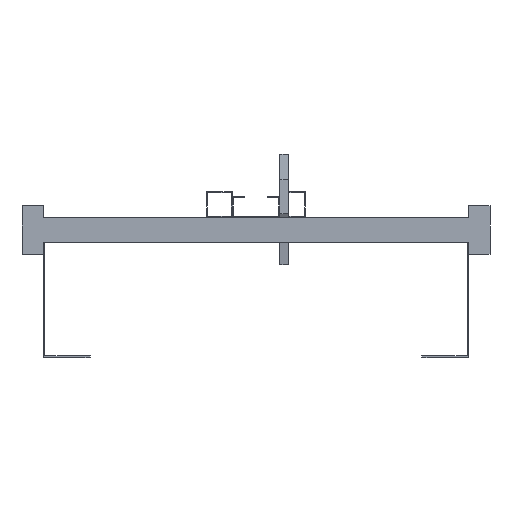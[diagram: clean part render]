
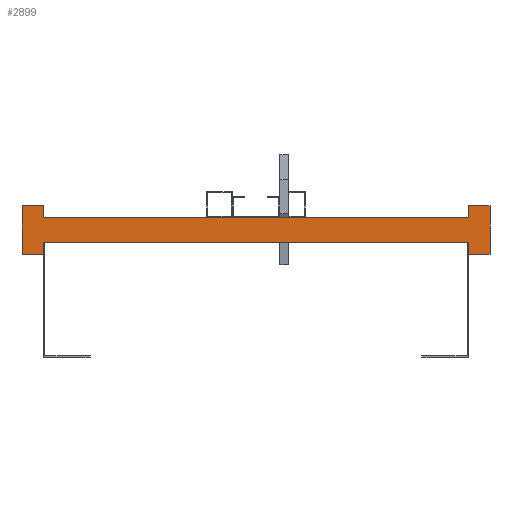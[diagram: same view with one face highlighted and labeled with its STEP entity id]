
A CAD part, front view. The second image highlights one B-rep face of the part: STEP entity #2899.
In plain terms, the highlighted planar face has unit normal (0, -1, 0).
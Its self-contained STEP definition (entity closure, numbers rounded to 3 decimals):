
#961=DIRECTION('',(0.,0.,1.));
#962=VECTOR('',#961,13.5);
#963=CARTESIAN_POINT('',(250.,0.,-28.5));
#964=LINE('',#963,#962);
#965=DIRECTION('',(0.,0.,-1.));
#966=VECTOR('',#965,13.5);
#967=CARTESIAN_POINT('',(-250.,0.,-15.));
#968=LINE('',#967,#966);
#969=DIRECTION('',(-1.,0.,0.));
#970=VECTOR('',#969,25.);
#971=CARTESIAN_POINT('',(-250.,0.,-28.5));
#972=LINE('',#971,#970);
#973=DIRECTION('',(0.,0.,1.));
#974=VECTOR('',#973,57.);
#975=CARTESIAN_POINT('',(-275.,0.,-28.5));
#976=LINE('',#975,#974);
#977=DIRECTION('',(1.,0.,0.));
#978=VECTOR('',#977,25.);
#979=CARTESIAN_POINT('',(-275.,0.,28.5));
#980=LINE('',#979,#978);
#981=DIRECTION('',(0.,0.,-1.));
#982=VECTOR('',#981,13.5);
#983=CARTESIAN_POINT('',(-250.,0.,28.5));
#984=LINE('',#983,#982);
#985=DIRECTION('',(0.,0.,1.));
#986=VECTOR('',#985,13.5);
#987=CARTESIAN_POINT('',(250.,0.,15.));
#988=LINE('',#987,#986);
#989=DIRECTION('',(1.,0.,0.));
#990=VECTOR('',#989,25.);
#991=CARTESIAN_POINT('',(250.,0.,28.5));
#992=LINE('',#991,#990);
#993=DIRECTION('',(0.,0.,-1.));
#994=VECTOR('',#993,57.);
#995=CARTESIAN_POINT('',(275.,0.,28.5));
#996=LINE('',#995,#994);
#997=DIRECTION('',(-1.,0.,0.));
#998=VECTOR('',#997,25.);
#999=CARTESIAN_POINT('',(275.,0.,-28.5));
#1000=LINE('',#999,#998);
#1001=DIRECTION('',(1.,0.,0.));
#1002=VECTOR('',#1001,500.);
#1003=CARTESIAN_POINT('',(-250.,0.,-15.));
#1004=LINE('',#1003,#1002);
#1013=DIRECTION('',(1.,0.,0.));
#1014=VECTOR('',#1013,500.);
#1015=CARTESIAN_POINT('',(-250.,0.,15.));
#1016=LINE('',#1015,#1014);
#1297=CARTESIAN_POINT('',(-275.,0.,28.5));
#1298=CARTESIAN_POINT('',(-250.,0.,28.5));
#1299=VERTEX_POINT('',#1297);
#1300=VERTEX_POINT('',#1298);
#1301=CARTESIAN_POINT('',(-250.,0.,-28.5));
#1302=CARTESIAN_POINT('',(-275.,0.,-28.5));
#1303=VERTEX_POINT('',#1301);
#1304=VERTEX_POINT('',#1302);
#1305=CARTESIAN_POINT('',(275.,0.,28.5));
#1306=CARTESIAN_POINT('',(275.,0.,-28.5));
#1307=VERTEX_POINT('',#1305);
#1308=VERTEX_POINT('',#1306);
#1309=CARTESIAN_POINT('',(250.,0.,-28.5));
#1310=VERTEX_POINT('',#1309);
#1311=CARTESIAN_POINT('',(250.,0.,28.5));
#1312=VERTEX_POINT('',#1311);
#1329=CARTESIAN_POINT('',(-250.,0.,-15.));
#1331=VERTEX_POINT('',#1329);
#1333=CARTESIAN_POINT('',(-250.,0.,15.));
#1335=VERTEX_POINT('',#1333);
#1337=CARTESIAN_POINT('',(250.,0.,-15.));
#1339=VERTEX_POINT('',#1337);
#1341=CARTESIAN_POINT('',(250.,0.,15.));
#1343=VERTEX_POINT('',#1341);
#2874=CARTESIAN_POINT('',(0.,0.,0.));
#2875=DIRECTION('',(0.,1.,0.));
#2876=DIRECTION('',(1.,0.,0.));
#2877=AXIS2_PLACEMENT_3D('',#2874,#2875,#2876);
#2878=PLANE('',#2877);
#2879=ORIENTED_EDGE('',*,*,#2017,.T.);
#2881=ORIENTED_EDGE('',*,*,#2880,.F.);
#2882=ORIENTED_EDGE('',*,*,#1804,.T.);
#2883=ORIENTED_EDGE('',*,*,#1714,.T.);
#2885=ORIENTED_EDGE('',*,*,#2884,.T.);
#2887=ORIENTED_EDGE('',*,*,#2886,.T.);
#2888=ORIENTED_EDGE('',*,*,#1812,.T.);
#2890=ORIENTED_EDGE('',*,*,#2889,.T.);
#2891=ORIENTED_EDGE('',*,*,#2009,.T.);
#2893=ORIENTED_EDGE('',*,*,#2892,.T.);
#2895=ORIENTED_EDGE('',*,*,#2894,.T.);
#2896=ORIENTED_EDGE('',*,*,#2574,.T.);
#2897=EDGE_LOOP('',(#2879,#2881,#2882,#2883,#2885,#2887,#2888,#2890,#2891,#2893,
#2895,#2896));
#2898=FACE_OUTER_BOUND('',#2897,.F.);
#1714=EDGE_CURVE('',#1303,#1304,#972,.T.);
#1804=EDGE_CURVE('',#1331,#1303,#968,.T.);
#1812=EDGE_CURVE('',#1300,#1335,#984,.T.);
#2009=EDGE_CURVE('',#1343,#1312,#988,.T.);
#2017=EDGE_CURVE('',#1310,#1339,#964,.T.);
#2574=EDGE_CURVE('',#1308,#1310,#1000,.T.);
#2880=EDGE_CURVE('',#1331,#1339,#1004,.T.);
#2884=EDGE_CURVE('',#1304,#1299,#976,.T.);
#2886=EDGE_CURVE('',#1299,#1300,#980,.T.);
#2889=EDGE_CURVE('',#1335,#1343,#1016,.T.);
#2892=EDGE_CURVE('',#1312,#1307,#992,.T.);
#2894=EDGE_CURVE('',#1307,#1308,#996,.T.);
#2899=ADVANCED_FACE('',(#2898),#2878,.F.);
